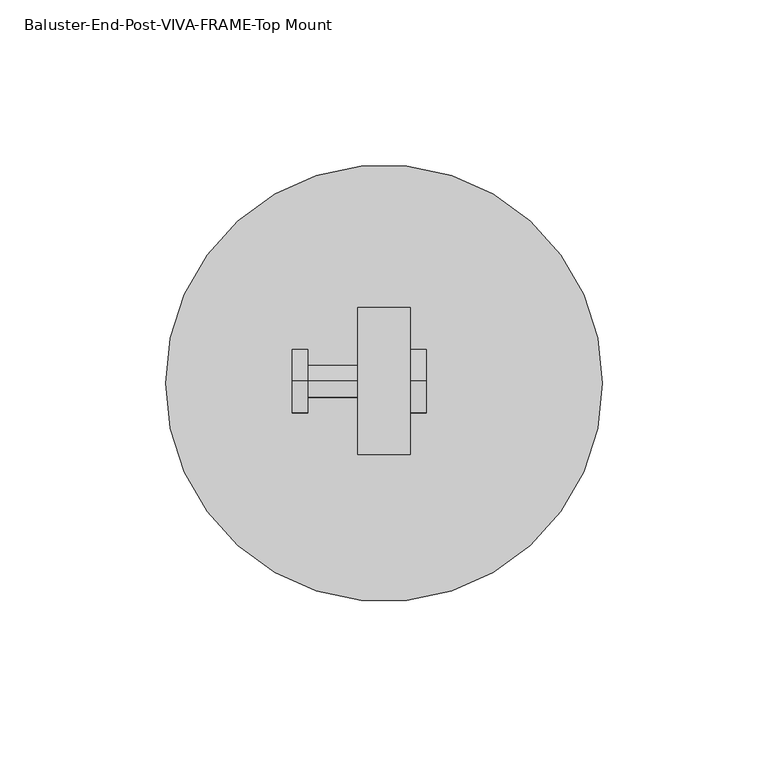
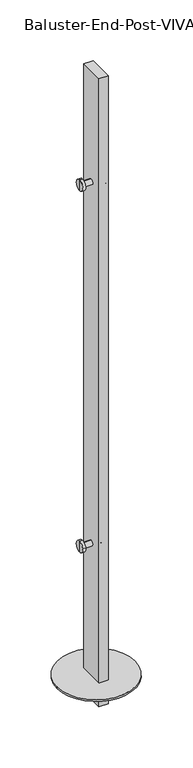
"""IFC4 building model written with IfcOpenShell, lengths in millimetres: proxy geometry, Baluster-End-Post-VIVA-FRAME-Top Mount : CORED INTO CONCRETE_TOP MOUNT FOLD_STRAIGHT."""

from ifc_helpers import new_model, si_unit, point, frame, frame_2d, origin, place, context, project, spatial, polyline, circle_curve, trimmed, segment, composite_curve, outline, extrude, source, transform, mapped, element, save
from ifc_brep_helpers import plane_surface, cylinder_surface, advanced_brep


def baluster_end_post_viva_frame_top_mount_dbc33080(model_context):
    return source(origin(), model_context, "Body", "SolidModel", [
        extrude(outline(polyline([(7.9375, -78.2802567), (7.9375, -122.7302567), (-7.9375, -122.7302567), (-7.9375, -78.2802567), (7.9375, -78.2802567)])), frame((0.0, 0.0, -39.2093072), z_axis=(0.0, 0.0, 1.0), x_axis=(1.0, 0.0, 0.0)), (0.0, 0.0, 1.0), 1125.3782846),
        advanced_brep(
        [(-27.7749, -100.5078, 231.7496), (-27.7749, -100.5078, 250.8504), (-27.7749, -100.5078, 241.3), (-22.9997, -100.5078, 231.7496), (-22.9997, -100.5078, 250.8504), (-22.9997, -100.5078, 236.5248), (-22.9997, -100.5078, 246.0752), (7.9375, -100.5078, 236.5248), (7.9375, -100.5078, 246.0752), (7.9375, -100.5078, 231.7496), (7.9375, -100.5078, 250.8504), (12.7127, -100.5078, 231.7496), (12.7127, -100.5078, 250.8504), (12.7127, -100.5078, 241.3)],
        [
            (0, 1, circle_curve(frame((-27.7749, -100.5078, 241.3), z_axis=(-1.0, 0.0, 0.0), x_axis=(0.0, 0.0, 1.0)), 9.5504)),
            (1, 2),
            (2, 0),
            (1, 0, circle_curve(frame((-27.7749, -100.5078, 241.3), z_axis=(-1.0, 0.0, 0.0), x_axis=(0.0, 0.0, 1.0)), 9.5504)),
            (3, 4, circle_curve(frame((-22.9997, -100.5078, 241.3), z_axis=(-1.0, 0.0, 0.0), x_axis=(0.0, 0.0, 1.0)), 9.5504)),
            (4, 1),
            (0, 3),
            (4, 3, circle_curve(frame((-22.9997, -100.5078, 241.3), z_axis=(-1.0, 0.0, 0.0), x_axis=(0.0, 0.0, 1.0)), 9.5504)),
            (5, 6, circle_curve(frame((-22.9997, -100.5078, 241.3), z_axis=(-1.0, 0.0, 0.0), x_axis=(0.0, 0.0, 1.0)), 4.7752)),
            (6, 4),
            (3, 5),
            (6, 5, circle_curve(frame((-22.9997, -100.5078, 241.3), z_axis=(-1.0, 0.0, 0.0), x_axis=(0.0, 0.0, 1.0)), 4.7752)),
            (7, 8, circle_curve(frame((7.9375, -100.5078, 241.3), z_axis=(-1.0, 0.0, 0.0), x_axis=(0.0, 0.0, 1.0)), 4.7752)),
            (8, 6),
            (5, 7),
            (8, 7, circle_curve(frame((7.9375, -100.5078, 241.3), z_axis=(-1.0, 0.0, 0.0), x_axis=(0.0, 0.0, 1.0)), 4.7752)),
            (9, 10, circle_curve(frame((7.9375, -100.5078, 241.3), z_axis=(-1.0, 0.0, 0.0), x_axis=(0.0, 0.0, 1.0)), 9.5504)),
            (10, 8),
            (7, 9),
            (10, 9, circle_curve(frame((7.9375, -100.5078, 241.3), z_axis=(-1.0, 0.0, 0.0), x_axis=(0.0, 0.0, 1.0)), 9.5504)),
            (11, 12, circle_curve(frame((12.7127, -100.5078, 241.3), z_axis=(-1.0, 0.0, 0.0), x_axis=(0.0, 0.0, 1.0)), 9.5504)),
            (12, 10),
            (9, 11),
            (12, 11, circle_curve(frame((12.7127, -100.5078, 241.3), z_axis=(-1.0, 0.0, 0.0), x_axis=(0.0, 0.0, 1.0)), 9.5504)),
            (13, 12),
            (11, 13),
        ],
        [
            plane_surface(frame((-27.7749, -100.5078, 241.3), z_axis=(-1.0, 0.0, 0.0), x_axis=(0.0, 0.0, 1.0))),
            cylinder_surface(frame((-3419.3552571, -100.5078, 241.3), z_axis=(1.0, 0.0, 0.0), x_axis=(0.0, 0.0, 1.0)), 9.5504),
            plane_surface(frame((-22.9997, -100.5078, 241.3), z_axis=(1.0, 0.0, 0.0), x_axis=(0.0, 0.0, 1.0))),
            cylinder_surface(frame((-3419.3552571, -100.5078, 241.3), z_axis=(1.0, 0.0, 0.0), x_axis=(0.0, 0.0, 1.0)), 4.7752),
            plane_surface(frame((7.9375, -100.5078, 241.3), z_axis=(-1.0, 0.0, 0.0), x_axis=(0.0, 0.0, 1.0))),
            plane_surface(frame((12.7127, -100.5078, 241.3), z_axis=(1.0, 0.0, 0.0), x_axis=(0.0, 0.0, 1.0))),
        ],
        [
            (0, [[1, 2, 3]]),
            (0, [[4, -3, -2]]),
            (1, [[5, 6, -1, 7]]),
            (1, [[8, -7, -4, -6]]),
            (2, [[9, 10, -5, 11]]),
            (2, [[12, -11, -8, -10]]),
            (3, [[13, 14, -9, 15]]),
            (3, [[16, -15, -12, -14]]),
            (4, [[17, 18, -13, 19]]),
            (4, [[20, -19, -16, -18]]),
            (1, [[21, 22, -17, 23]]),
            (1, [[24, -23, -20, -22]]),
            (5, [[25, -21, 26]]),
            (5, [[-26, -24, -25]]),
        ],
    ),
        advanced_brep(
        [(-27.7749, -100.5078, 879.4559555), (-27.7749, -100.5078, 898.5567555), (-27.7749, -100.5078, 889.0063555), (-22.9997, -100.5078, 879.4559555), (-22.9997, -100.5078, 898.5567555), (-22.9997, -100.5078, 884.2311555), (-22.9997, -100.5078, 893.7815555), (7.9375, -100.5078, 884.2311555), (7.9375, -100.5078, 893.7815555), (7.9375, -100.5078, 879.4559555), (7.9375, -100.5078, 898.5567555), (12.7127, -100.5078, 879.4559555), (12.7127, -100.5078, 898.5567555), (12.7127, -100.5078, 889.0063555)],
        [
            (0, 1, circle_curve(frame((-27.7749, -100.5078, 889.0063555), z_axis=(-1.0, 0.0, 0.0), x_axis=(0.0, 0.0, 1.0)), 9.5504)),
            (1, 2),
            (2, 0),
            (1, 0, circle_curve(frame((-27.7749, -100.5078, 889.0063555), z_axis=(-1.0, 0.0, 0.0), x_axis=(0.0, 0.0, 1.0)), 9.5504)),
            (3, 4, circle_curve(frame((-22.9997, -100.5078, 889.0063555), z_axis=(-1.0, 0.0, 0.0), x_axis=(0.0, 0.0, 1.0)), 9.5504)),
            (4, 1),
            (0, 3),
            (4, 3, circle_curve(frame((-22.9997, -100.5078, 889.0063555), z_axis=(-1.0, 0.0, 0.0), x_axis=(0.0, 0.0, 1.0)), 9.5504)),
            (5, 6, circle_curve(frame((-22.9997, -100.5078, 889.0063555), z_axis=(-1.0, 0.0, 0.0), x_axis=(0.0, 0.0, 1.0)), 4.7752)),
            (6, 4),
            (3, 5),
            (6, 5, circle_curve(frame((-22.9997, -100.5078, 889.0063555), z_axis=(-1.0, 0.0, 0.0), x_axis=(0.0, 0.0, 1.0)), 4.7752)),
            (7, 8, circle_curve(frame((7.9375, -100.5078, 889.0063555), z_axis=(-1.0, 0.0, 0.0), x_axis=(0.0, 0.0, 1.0)), 4.7752)),
            (8, 6),
            (5, 7),
            (8, 7, circle_curve(frame((7.9375, -100.5078, 889.0063555), z_axis=(-1.0, 0.0, 0.0), x_axis=(0.0, 0.0, 1.0)), 4.7752)),
            (9, 10, circle_curve(frame((7.9375, -100.5078, 889.0063555), z_axis=(-1.0, 0.0, 0.0), x_axis=(0.0, 0.0, 1.0)), 9.5504)),
            (10, 8),
            (7, 9),
            (10, 9, circle_curve(frame((7.9375, -100.5078, 889.0063555), z_axis=(-1.0, 0.0, 0.0), x_axis=(0.0, 0.0, 1.0)), 9.5504)),
            (11, 12, circle_curve(frame((12.7127, -100.5078, 889.0063555), z_axis=(-1.0, 0.0, 0.0), x_axis=(0.0, 0.0, 1.0)), 9.5504)),
            (12, 10),
            (9, 11),
            (12, 11, circle_curve(frame((12.7127, -100.5078, 889.0063555), z_axis=(-1.0, 0.0, 0.0), x_axis=(0.0, 0.0, 1.0)), 9.5504)),
            (13, 12),
            (11, 13),
        ],
        [
            plane_surface(frame((-27.7749, -100.5078, 889.0063555), z_axis=(-1.0, 0.0, 0.0), x_axis=(0.0, 0.0, 1.0))),
            cylinder_surface(frame((-3419.3552571, -100.5078, 889.0063555), z_axis=(1.0, 0.0, 0.0), x_axis=(0.0, 0.0, 1.0)), 9.5504),
            plane_surface(frame((-22.9997, -100.5078, 889.0063555), z_axis=(1.0, 0.0, 0.0), x_axis=(0.0, 0.0, 1.0))),
            cylinder_surface(frame((-3419.3552571, -100.5078, 889.0063555), z_axis=(1.0, 0.0, 0.0), x_axis=(0.0, 0.0, 1.0)), 4.7752),
            plane_surface(frame((7.9375, -100.5078, 889.0063555), z_axis=(-1.0, 0.0, 0.0), x_axis=(0.0, 0.0, 1.0))),
            plane_surface(frame((12.7127, -100.5078, 889.0063555), z_axis=(1.0, 0.0, 0.0), x_axis=(0.0, 0.0, 1.0))),
        ],
        [
            (0, [[1, 2, 3]]),
            (0, [[4, -3, -2]]),
            (1, [[5, 6, -1, 7]]),
            (1, [[8, -7, -4, -6]]),
            (2, [[9, 10, -5, 11]]),
            (2, [[12, -11, -8, -10]]),
            (3, [[13, 14, -9, 15]]),
            (3, [[16, -15, -12, -14]]),
            (4, [[17, 18, -13, 19]]),
            (4, [[20, -19, -16, -18]]),
            (1, [[21, 22, -17, 23]]),
            (1, [[24, -23, -20, -22]]),
            (5, [[25, -21, 26]]),
            (5, [[-26, -24, -25]]),
        ],
    ),
        extrude(outline(composite_curve([segment(trimmed(circle_curve(frame_2d((0.0, -100.9769621)), 66.0), [point((-66.0, -100.9769621))], [point((66.0, -100.9769621))], False, "CARTESIAN"), True, "CONTINUOUS"), segment(trimmed(circle_curve(frame_2d((0.0, -100.9769621)), 66.0), [point((66.0, -100.9769621))], [point((-66.0, -100.9769621))], False, "CARTESIAN"), True, "CONTINUOUS")], self_intersect=False)), frame((0.0, 0.0, 0.5143555), z_axis=(0.0, 0.0, 1.0), x_axis=(1.0, 0.0, 0.0)), (0.0, 0.0, 1.0), 3.0),
    ])


if __name__ == "__main__":
    model = new_model("IFC4")
    model_context = context("Model", 3, world=origin())
    ifc_project = project(units=[si_unit("LENGTHUNIT", "METRE", prefix="MILLI")], contexts=[model_context])
    site = spatial("IfcSite", under=ifc_project)
    building = spatial("IfcBuilding", under=site)
    placement = place(None, origin())
    baluster_end_post_viva_frame_top_mount_shape = baluster_end_post_viva_frame_top_mount_dbc33080(model_context)
    element("IfcBuildingElementProxy", 1, Name="Baluster-End-Post-VIVA-FRAME-Top Mount : CORED INTO CONCRETE_TOP MOUNT FOLD_STRAIGHT", ObjectType="Baluster-End-Post-VIVA-FRAME-Top Mount : CORED INTO CONCRETE_TOP MOUNT FOLD_STRAIGHT", at=placement, inside=building, context=model_context, shape_type="MappedRepresentation", body=[
        mapped(baluster_end_post_viva_frame_top_mount_shape, transform((0.0, 0.0, 0.0), x_axis=(1.0, 0.0, 0.0), y_axis=(0.0, 1.0, 0.0), z_axis=(0.0, 0.0, 1.0))),
    ])
    save(model, "model.ifc")
